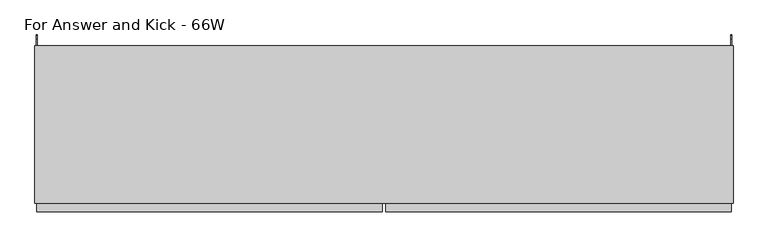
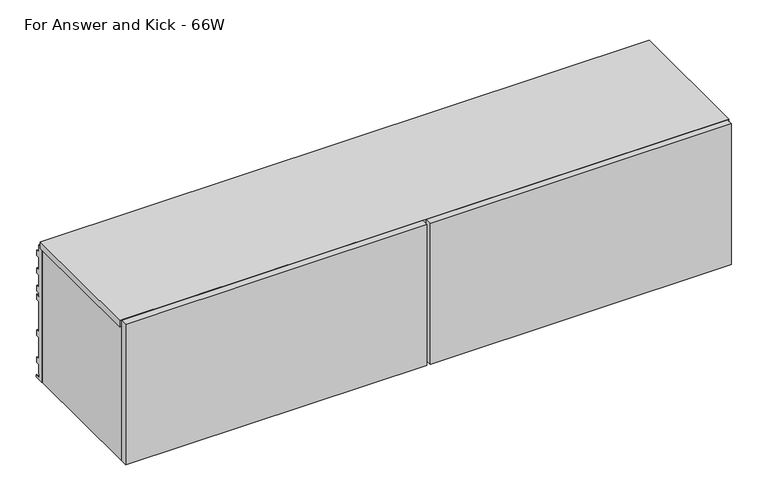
"""IFC4 building model written with IfcOpenShell, lengths in millimetres: furniture geometry, Steelcase - Universal Storage - Over the Case Bin - Flat Front : For Answer and Kick - 66W."""

import ifcopenshell
import ifcopenshell.guid

model = None  # the IFC model being written
_history = None  # IfcOwnerHistory: only IFC2X3 demands one
_inside = {}  # id of a spatial element -> (the spatial element, [elements in it])
_under = {}  # id of a project, library or spatial element -> (it, [spatial elements below it])
_declared = {}  # id of a project -> (the project, [libraries it declares])
_typed = {}  # id of a type object -> (the type object, [elements of that type])
_made_of = {}  # id of a material, layer set ... -> (it, [elements and type objects made of it])


def new_model(schema):
    """Start an empty IFC model of exactly this schema.

    Asked for "IFC4X3", IfcOpenShell would pick the latest addendum, in which some entities
    have other attributes; the version numbers below select the first issue.
    IFC2X3 requires an IfcOwnerHistory on every rooted entity: one is made here for all.
    """
    global model, _history
    if schema == "IFC4X3":
        model = ifcopenshell.file(schema_version=(4, 3, 0, 0))
    else:
        model = ifcopenshell.file(schema=schema)
    _inside.clear()
    _under.clear()
    _declared.clear()
    _typed.clear()
    _made_of.clear()
    _history = None
    if model.schema == "IFC2X3":
        org = make("IfcOrganization", Name="unknown")
        user = make(
            "IfcPersonAndOrganization",
            ThePerson=make("IfcPerson", FamilyName="unknown"),
            TheOrganization=org,
        )
        app = make(
            "IfcApplication",
            ApplicationDeveloper=org,
            Version="unknown",
            ApplicationFullName="unknown",
            ApplicationIdentifier="unknown",
        )
        _history = make(
            "IfcOwnerHistory",
            OwningUser=user,
            OwningApplication=app,
            ChangeAction="ADDED",
            CreationDate=0,
        )
    return model


def make(cls, **values):
    """One entity of the class cls with the attributes given. An attribute that is None is left unset."""
    return model.create_entity(
        cls, **{name: value for name, value in values.items() if value is not None}
    )


def rooted(cls, **values):
    """An entity with a GlobalId (a new one), such as an element, a storey or a relation."""
    return make(cls, GlobalId=ifcopenshell.guid.new(), OwnerHistory=_history, **values)


def si_unit(unit_type, name, prefix=None):
    """IfcSIUnit, for example si_unit("LENGTHUNIT", "METRE", prefix="MILLI")."""
    return make("IfcSIUnit", UnitType=unit_type, Prefix=prefix, Name=name)


def assignment(units):
    """IfcUnitAssignment: the units of a project."""
    return None if units is None else make("IfcUnitAssignment", Units=units)


def point(xyz):
    """IfcCartesianPoint."""
    return None if xyz is None else make("IfcCartesianPoint", Coordinates=xyz)


def direction(xyz):
    """IfcDirection."""
    return None if xyz is None else make("IfcDirection", DirectionRatios=xyz)


def frame(location, z_axis=None, x_axis=None):
    """IfcAxis2Placement3D, a coordinate frame: its origin and axes. An axis left out is left unset."""
    return make(
        "IfcAxis2Placement3D",
        Location=point(location),
        Axis=direction(z_axis),
        RefDirection=direction(x_axis),
    )


def origin():
    """The frame at (0, 0, 0) with its axes left unset."""
    return frame((0.0, 0.0, 0.0))


def place(relative_to, where):
    """IfcLocalPlacement: puts the frame where relative to a parent placement (None: the world)."""
    return make(
        "IfcLocalPlacement", PlacementRelTo=relative_to, RelativePlacement=where
    )


def context(
    kind, dimensions, precision=None, world=None, true_north=None, identifier=None
):
    """IfcGeometricRepresentationContext, for example the 3D "Model" context."""
    return make(
        "IfcGeometricRepresentationContext",
        ContextIdentifier=identifier,
        ContextType=kind,
        CoordinateSpaceDimension=dimensions,
        Precision=precision,
        WorldCoordinateSystem=world,
        TrueNorth=true_north,
    )


def project(units=None, contexts=None):
    """IfcProject with its units and contexts."""
    return rooted(
        "IfcProject",
        Name="project",
        RepresentationContexts=contexts,
        UnitsInContext=assignment(units),
    )


def spatial(cls, under=None, at=None, **own):
    """A site, building, storey or space (cls), placed at a placement, below another one or the project."""
    s = rooted(cls, ObjectPlacement=at, **own)
    if under is not None:
        _under.setdefault(under.id(), (under, []))[1].append(s)
    return s


def polyline(points):
    """IfcPolyline through the points."""
    return make("IfcPolyline", Points=[point(p) for p in points])


def outline(outer, holes=None, kind="AREA"):
    """IfcArbitraryClosedProfileDef: a profile drawn as a closed curve; with holes, ...WithVoids."""
    if holes is None:
        return make("IfcArbitraryClosedProfileDef", ProfileType=kind, OuterCurve=outer)
    return make(
        "IfcArbitraryProfileDefWithVoids",
        ProfileType=kind,
        OuterCurve=outer,
        InnerCurves=holes,
    )


def extrude(swept, where, along, depth):
    """IfcExtrudedAreaSolid: the profile swept, set in the frame where, extruded along a direction by depth."""
    return make(
        "IfcExtrudedAreaSolid",
        SweptArea=swept,
        Position=where,
        ExtrudedDirection=direction(along),
        Depth=depth,
    )


def shape(context_of_items, identifier, shape_type, items):
    """IfcShapeRepresentation: the items that make up one representation, for example the "Body"."""
    return make(
        "IfcShapeRepresentation",
        ContextOfItems=context_of_items,
        RepresentationIdentifier=identifier,
        RepresentationType=shape_type,
        Items=items,
    )


def source(mapping_origin, context_of_items, identifier, shape_type, items):
    """IfcRepresentationMap: a shape defined once, which mapped items show again and again."""
    return make(
        "IfcRepresentationMap",
        MappingOrigin=mapping_origin,
        MappedRepresentation=shape(context_of_items, identifier, shape_type, items),
    )


def transform(
    local_origin,
    x_axis=None,
    y_axis=None,
    z_axis=None,
    scale=None,
    scale2=None,
    scale3=None,
    uniform=True,
):
    """IfcCartesianTransformationOperator3D, or its non-uniform kind. x_axis, y_axis, z_axis: its Axis1, 2, 3."""
    if uniform:
        return make(
            "IfcCartesianTransformationOperator3D",
            Axis1=direction(x_axis),
            Axis2=direction(y_axis),
            LocalOrigin=point(local_origin),
            Scale=scale,
            Axis3=direction(z_axis),
        )
    return make(
        "IfcCartesianTransformationOperator3DnonUniform",
        Axis1=direction(x_axis),
        Axis2=direction(y_axis),
        LocalOrigin=point(local_origin),
        Scale=scale,
        Axis3=direction(z_axis),
        Scale2=scale2,
        Scale3=scale3,
    )


def mapped(mapping_source, mapping_target):
    """IfcMappedItem: shows the shape of a source again, moved by a transform."""
    return make(
        "IfcMappedItem", MappingSource=mapping_source, MappingTarget=mapping_target
    )


def made_of(thing, what):
    """Note that an element or type object is made of a material, layer set ...; save() writes the relation."""
    if what is not None:
        _made_of.setdefault(what.id(), (what, []))[1].append(thing)
    return thing


def element(
    cls,
    number,
    at=None,
    inside=None,
    cuts=None,
    type_object=None,
    material=None,
    context=None,
    identifier="Body",
    shape_type=None,
    held_by="IfcProductDefinitionShape",
    body=None,
    shapes=None,
    **own,
):
    """One element of the class cls, such as IfcWall. Its Tag is "e" and its number.

    at: its placement. inside: the storey or other place that contains it. cuts: it is an
    opening in that element (IfcRelVoidsElement). A single representation is given by context,
    identifier, shape_type and body (its items); several are given by shapes. held_by: the class
    of the entity that holds the representations. save() writes the other relations.
    """
    e = rooted(cls, Tag="e%d" % number, ObjectPlacement=at, **own)
    if body is not None:
        shapes = [shape(context, identifier, shape_type, body)]
    if shapes is not None:
        e.Representation = make(held_by, Representations=shapes)
    if inside is not None:
        _inside.setdefault(inside.id(), (inside, []))[1].append(e)
    if cuts is not None:
        rooted(
            "IfcRelVoidsElement", RelatingBuildingElement=cuts, RelatedOpeningElement=e
        )
    if type_object is not None:
        _typed.setdefault(type_object.id(), (type_object, []))[1].append(e)
    return made_of(e, material)


def aggregate(whole, parts):
    """IfcRelAggregates: a whole, such as a stair, and the parts it consists of."""
    return rooted("IfcRelAggregates", RelatingObject=whole, RelatedObjects=parts)


def save(model, path):
    """Write the relations noted so far, then the file.

    IfcRelAggregates (storeys below a building ...), IfcRelContainedInSpatialStructure (elements
    in a storey), IfcRelDefinesByType, IfcRelAssociatesMaterial and IfcRelDeclares: one each for
    every whole, place, type object, material and project.
    """
    for whole, parts in _under.values():
        aggregate(whole, parts)
    for where, things in _inside.values():
        rooted(
            "IfcRelContainedInSpatialStructure",
            RelatedElements=things,
            RelatingStructure=where,
        )
    for kind, things in _typed.values():
        rooted("IfcRelDefinesByType", RelatedObjects=things, RelatingType=kind)
    for what, things in _made_of.values():
        rooted("IfcRelAssociatesMaterial", RelatedObjects=things, RelatingMaterial=what)
    for by, libraries in _declared.values():
        rooted("IfcRelDeclares", RelatingContext=by, RelatedDefinitions=libraries)
    model.write(path)


def for_answer_and_kick_66w_1c492aec(model_context):
    return source(origin(), model_context, "Body", "SweptSolid", [
        extrude(outline(polyline([(0.0, 1657.096), (15.428165, 1657.096), (15.428165, 1635.9725192), (24.6737648, 1635.9725192), (24.6737648, 1620.2499324), (17.7141651, 1620.2499324), (17.7141651, 1627.4034202), (15.428165, 1627.4034202), (13.3707653, 1623.8398995), (13.3707653, 1584.7332049), (24.4959651, 1584.7332049), (24.4959651, 1569.0106181), (17.7141651, 1569.0106181), (17.7141651, 1576.1734076), (15.428165, 1576.1734076), (13.3707653, 1572.6099624), (13.3707653, 1533.4938907), (24.6737648, 1533.4938907), (24.6737648, 1517.7713038), (17.5768, 1517.7713038), (17.5768, 1524.9340934), (15.4248855, 1524.9340934), (13.3349998, 1521.3219111), (13.3349998, 1508.4166423), (24.6737648, 1508.4166423), (24.6737648, 1492.6940555), (17.5768, 1492.6940555), (17.5768, 1499.856845), (15.4205129, 1499.856845), (13.3933344, 1496.3530466), (13.3933344, 1483.6530466), (15.428165, 1479.2893385), (15.428165, 1403.8551467), (24.6737648, 1403.8551467), (24.6737648, 1388.1325599), (17.7141651, 1388.1325599), (17.7141651, 1395.2982562), (15.428165, 1395.2982562), (13.3306079, 1391.6651808), (13.3306079, 1353.5651808), (15.428165, 1349.9321054), (15.428165, 1325.1000701), (24.6737648, 1325.1000701), (24.6737648, 1309.3774833), (17.7141651, 1309.3774833), (17.7141651, 1316.5328605), (15.428165, 1316.5328605), (15.428165, 1303.5355433), (13.2046809, 1299.684356), (13.2046809, 1282.9679719), (11.2879653, 1282.9679719), (11.2879653, 1271.9303504), (26.4009645, 1271.9303504), (26.4009645, 1265.428), (0.0, 1265.428), (0.0, 1657.096)])), frame((1670.8882, 0.0, 0.0), z_axis=(1.0, 0.0, 0.0), x_axis=(0.0, 1.0, 0.0)), (0.0, 0.0, 1.0), 1.905),
        extrude(outline(polyline([(0.0, 1657.096), (15.428165, 1657.096), (15.428165, 1635.9725192), (24.6737648, 1635.9725192), (24.6737648, 1620.2499324), (17.7141651, 1620.2499324), (17.7141651, 1627.4034202), (15.428165, 1627.4034202), (13.3707653, 1623.8398995), (13.3707653, 1584.7332049), (24.4959651, 1584.7332049), (24.4959651, 1569.0106181), (17.7141651, 1569.0106181), (17.7141651, 1576.1734076), (15.428165, 1576.1734076), (13.3707653, 1572.6099624), (13.3707653, 1533.4938907), (24.6737648, 1533.4938907), (24.6737648, 1517.7713038), (17.5768, 1517.7713038), (17.5768, 1524.9340934), (15.4248855, 1524.9340934), (13.3349998, 1521.3219111), (13.3349998, 1508.4166423), (24.6737648, 1508.4166423), (24.6737648, 1492.6940555), (17.5768, 1492.6940555), (17.5768, 1499.856845), (15.4205129, 1499.856845), (13.3933344, 1496.3530466), (13.3933344, 1483.6530466), (15.428165, 1479.2893385), (15.428165, 1403.8551467), (24.6737648, 1403.8551467), (24.6737648, 1388.1325599), (17.7141651, 1388.1325599), (17.7141651, 1395.2982562), (15.428165, 1395.2982562), (13.3306079, 1391.6651808), (13.3306079, 1353.5651808), (15.428165, 1349.9321054), (15.428165, 1325.1000701), (24.6737648, 1325.1000701), (24.6737648, 1309.3774833), (17.7141651, 1309.3774833), (17.7141651, 1316.5328605), (15.428165, 1316.5328605), (15.428165, 1303.5355433), (13.2046809, 1299.684356), (13.2046809, 1282.9679719), (11.2879653, 1282.9679719), (11.2879653, 1271.9303504), (26.4009645, 1271.9303504), (26.4009645, 1265.428), (0.0, 1265.428), (0.0, 1657.096)])), frame((3.6068, 0.0, 0.0), z_axis=(1.0, 0.0, 0.0), x_axis=(0.0, 1.0, 0.0)), (0.0, 0.0, 1.0), 1.905),
        extrude(outline(polyline([(842.772, -379.476), (1671.9703, -379.476), (1671.9703, -398.526), (842.772, -398.526), (842.772, -379.476)])), frame((0.0, 0.0, 1266.8226746), z_axis=(0.0, 0.0, 1.0), x_axis=(1.0, 0.0, 0.0)), (0.0, 0.0, 1.0), 409.5773254),
        extrude(outline(polyline([(4.4448587, -379.476), (833.628, -379.476), (833.628, -398.526), (4.4448587, -398.526), (4.4448587, -379.476)])), frame((0.0, 0.0, 1266.8226746), z_axis=(0.0, 0.0, 1.0), x_axis=(1.0, 0.0, 0.0)), (0.0, 0.0, 1.0), 409.5773254),
        extrude(outline(polyline([(1676.4, -377.213238), (0.0, -377.213238), (0.0, 0.0), (1676.4, 0.0), (1676.4, -377.213238)])), frame((0.0, 0.0, 1657.35), z_axis=(0.0, 0.0, 1.0), x_axis=(1.0, 0.0, 0.0)), (0.0, 0.0, 1.0), 19.05),
        extrude(outline(polyline([(15.875, -377.213238), (5.5118, -377.213238), (5.5118, 0.0), (15.875, 0.0), (15.875, -377.213238)])), frame((0.0, 0.0, 1265.428), z_axis=(0.0, 0.0, 1.0), x_axis=(1.0, 0.0, 0.0)), (0.0, 0.0, 1.0), 391.6679457),
        extrude(outline(polyline([(1675.2568665, -377.213238), (1660.525, -377.213238), (1660.525, 0.0), (1675.2568665, 0.0), (1675.2568665, -377.213238)])), frame((0.0, 0.0, 1265.428), z_axis=(0.0, 0.0, 1.0), x_axis=(1.0, 0.0, 0.0)), (0.0, 0.0, 1.0), 391.6679457),
        extrude(outline(polyline([(-35.4584098, 1372.819257), (-27.0763996, 1372.819257), (-27.0763996, 1360.1191601), (-33.4264117, 1360.1191601), (-33.4264117, 1323.1622589), (-27.0763996, 1323.1622589), (-27.0763996, 1265.428), (-35.4584098, 1265.428), (-35.4584098, 1293.054213), (-46.1263996, 1293.054213), (-46.1263996, 1268.1875622), (-59.9694137, 1268.1875622), (-59.9694137, 1294.8575912), (-332.8542818, 1294.8575912), (-332.8542818, 1268.1875622), (-377.3042823, 1268.1875622), (-377.3042823, 1310.7072052), (-35.4584098, 1310.7072052), (-35.4584098, 1372.819257)])), frame((15.875, 0.0, 0.0), z_axis=(1.0, 0.0, 0.0), x_axis=(0.0, 1.0, 0.0)), (0.0, 0.0, 1.0), 1644.65),
    ])


if __name__ == "__main__":
    model = new_model("IFC4")
    model_context = context("Model", 3, world=origin())
    ifc_project = project(units=[si_unit("LENGTHUNIT", "METRE", prefix="MILLI")], contexts=[model_context])
    site = spatial("IfcSite", under=ifc_project)
    building = spatial("IfcBuilding", under=site)
    placement = place(None, origin())
    for_answer_and_kick_66w_shape = for_answer_and_kick_66w_1c492aec(model_context)
    element("IfcFurniture", 1, ObjectType="Steelcase - Universal Storage - Over the Case Bin - Flat Front : For Answer and Kick - 66W", at=placement, inside=building, context=model_context, shape_type="MappedRepresentation", body=[
        mapped(for_answer_and_kick_66w_shape, transform((0.0, 0.0, 0.0), x_axis=(1.0, 0.0, 0.0), y_axis=(0.0, 1.0, 0.0), z_axis=(0.0, 0.0, 1.0))),
    ])
    save(model, "model.ifc")
